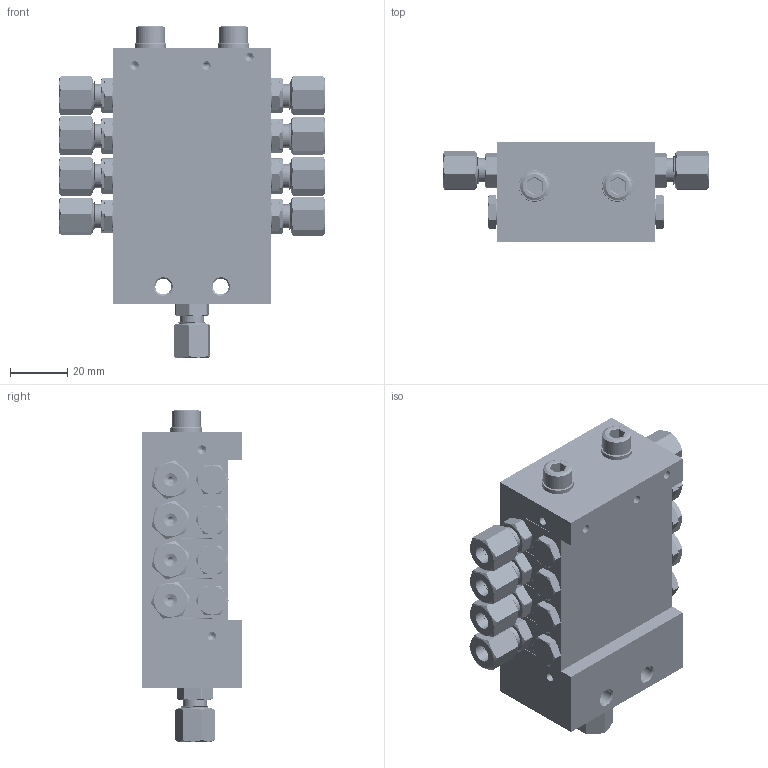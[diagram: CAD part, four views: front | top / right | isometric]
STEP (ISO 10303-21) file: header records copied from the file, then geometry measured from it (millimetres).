
FILE_DESCRIPTION (( 'STEP AP214' ), '1' );
FILE_NAME ('STW_XV_0143_08_050_8_Auslässe.STEP', '2026-01-28T14:43:25', ( '' ), ( '' ), 'SwSTEP 2.0', 'SolidWorks 2022', '' );
FILE_SCHEMA (( 'AUTOMOTIVE_DESIGN' ));
Length unit declared in the file: millimetre
Products named in the file (14): STW_XV_END; 991214010601_Schneidring; XV_Mittelelement; STW_XV_ENGANG; M6X65_DIN_912; STW_XV_Verbindungsstopen; 991214010601_Mutter; 991214010601_Koerper; U_Scheibe_6; STW_XV_MITTEL_1; STW_XV_0143_08_050_8_Auslässe; 991214010601; STW_XV_Kolbenanschlag; Verschlussstopfen_1_8_2
Assembly tree (43 placements, depth 3):
  STW_XV_0143_08_050_8_Auslässe
    STW_XV_ENGANG
    STW_XV_MITTEL_1  x3
    STW_XV_END
    Verschlussstopfen_1_8_2  x6
    STW_XV_Kolbenanschlag  x6
    STW_XV_Verbindungsstopen  x3
    M6X65_DIN_912  x2
    U_Scheibe_6  x2
    991214010601  x9
      991214010601_Koerper
      991214010601_Schneidring
      991214010601_Mutter
    XV_Mittelelement
      STW_XV_MITTEL_1
      STW_XV_Kolbenanschlag  x2
      Verschlussstopfen_1_8_2  x2
      STW_XV_Verbindungsstopen
Bounding box: 92.76 x 35 x 115.68 mm (x, y, z)
Volume: 163247.5 mm3; surface area: 90477.5 mm2
Topology: 57 solids, 57 shells, 1882 faces, 4763 edges, 3064 vertices
Faces by surface type: plane 857, cylinder 553, cone 314, bspline 150, torus 8
Full cylindrical faces by diameter (mm): 2 x113, 3 x11, 4.5 x9, 5 x47, 5.5 x2, 5.9 x2, 6 x11, 6.2 x19, 6.4 x2, 6.5 x8, 7 x8, 7.4 x9, 7.67 x9, 8 x17, 8.3 x9, 8.4 x4, 8.6 x20, 9 x18, 9.7 x8, 9.73 x4, 9.8 x63, 10 x10, 11 x2, 15 x1
Entity records: 40635 total; most frequent: CARTESIAN_POINT 20488, ORIENTED_EDGE 2738, DIRECTION 2321, EDGE_CURVE 1369, VERTEX_POINT 974, EDGE_LOOP 901, AXIS2_PLACEMENT_3D 811, FACE_OUTER_BOUND 724
